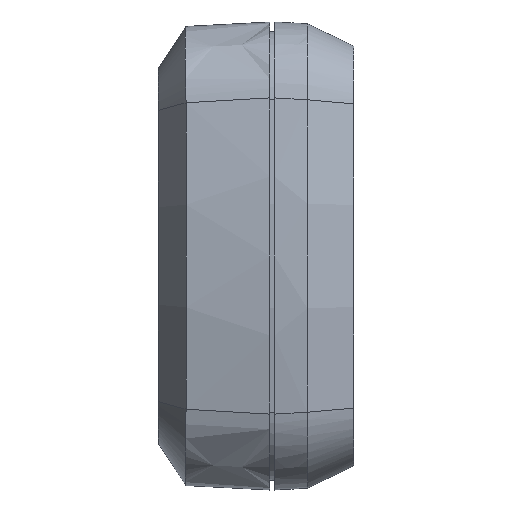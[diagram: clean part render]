
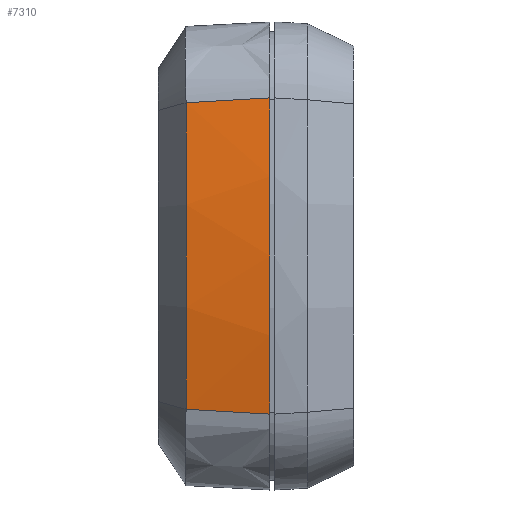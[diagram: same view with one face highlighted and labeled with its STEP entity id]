
A CAD part, left-side view. The second image highlights one B-rep face of the part: STEP entity #7310.
In plain terms, the highlighted conical face has half-angle 3 degrees and reference radius 91.751 mm.
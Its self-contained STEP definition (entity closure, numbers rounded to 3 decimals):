
#104 = CARTESIAN_POINT ( 'NONE',  ( -32.919, 0., 16.96 ) ) ;
#263 = FACE_OUTER_BOUND ( 'NONE', #10819, .T. ) ;
#286 = DIRECTION ( 'NONE',  ( 0., 0., -1. ) ) ;
#1627 = CARTESIAN_POINT ( 'NONE',  ( 57.251, 0., 0. ) ) ;
#1946 = CARTESIAN_POINT ( 'NONE',  ( -32.919, 0., 16.96 ) ) ;
#2124 = B_SPLINE_CURVE_WITH_KNOTS ( 'NONE', 3,
 ( #1946, #4551, #2825, #8919 ),
 .UNSPECIFIED., .F., .F.,
 ( 4, 4 ),
 ( 0., 0.009 ),
 .UNSPECIFIED. ) ;
#2225 = CARTESIAN_POINT ( 'NONE',  ( -32.664, 6.003, -16.614 ) ) ;
#2328 = CIRCLE ( 'NONE', #5550, 91.751 ) ;
#2560 = VERTEX_POINT ( 'NONE', #6099 ) ;
#2825 = CARTESIAN_POINT ( 'NONE',  ( -32.664, 6.003, 16.614 ) ) ;
#3513 = VERTEX_POINT ( 'NONE', #6521 ) ;
#3806 = CARTESIAN_POINT ( 'NONE',  ( 57.251, 0., 0. ) ) ;
#4233 = DIRECTION ( 'NONE',  ( 0., 0., 1. ) ) ;
#4529 = EDGE_CURVE ( 'NONE', #3513, #10523, #11202, .T. ) ;
#4551 = CARTESIAN_POINT ( 'NONE',  ( -32.791, 3.001, 16.787 ) ) ;
#4691 = DIRECTION ( 'NONE',  ( 0., 0., 1. ) ) ;
#4875 = CARTESIAN_POINT ( 'NONE',  ( -32.919, 0., -16.96 ) ) ;
#5044 = EDGE_CURVE ( 'NONE', #2560, #10090, #2328, .T. ) ;
#5542 = DIRECTION ( 'NONE',  ( 0., -1., 0. ) ) ;
#5550 = AXIS2_PLACEMENT_3D ( 'NONE', #3806, #9891, #4691 ) ;
#5850 = B_SPLINE_CURVE_WITH_KNOTS ( 'NONE', 3,
 ( #8329, #2225, #10076, #4875 ),
 .UNSPECIFIED., .F., .F.,
 ( 4, 4 ),
 ( 0.003, 0.012 ),
 .UNSPECIFIED. ) ;
#5991 = DIRECTION ( 'NONE',  ( 0., -1., 0. ) ) ;
#6099 = CARTESIAN_POINT ( 'NONE',  ( -32.919, 0., -16.96 ) ) ;
#6128 = ORIENTED_EDGE ( 'NONE', *, *, #10195, .T. ) ;
#6521 = CARTESIAN_POINT ( 'NONE',  ( -32.535, 9.004, 16.44 ) ) ;
#6679 = CONICAL_SURFACE ( 'NONE', #7364, 91.751, 0.052 ) ;
#6734 = CARTESIAN_POINT ( 'NONE',  ( -32.535, 9.004, -16.44 ) ) ;
#7310 = ADVANCED_FACE ( 'NONE', ( #263 ), #6679, .T. ) ;
#7364 = AXIS2_PLACEMENT_3D ( 'NONE', #1627, #5991, #4233 ) ;
#8329 = CARTESIAN_POINT ( 'NONE',  ( -32.535, 9.004, -16.44 ) ) ;
#8662 = ORIENTED_EDGE ( 'NONE', *, *, #9565, .T. ) ;
#8919 = CARTESIAN_POINT ( 'NONE',  ( -32.535, 9.004, 16.44 ) ) ;
#9481 = AXIS2_PLACEMENT_3D ( 'NONE', #10757, #5542, #286 ) ;
#9565 = EDGE_CURVE ( 'NONE', #10523, #2560, #5850, .T. ) ;
#9819 = ORIENTED_EDGE ( 'NONE', *, *, #5044, .T. ) ;
#9891 = DIRECTION ( 'NONE',  ( 0., 1., 0. ) ) ;
#10076 = CARTESIAN_POINT ( 'NONE',  ( -32.791, 3.001, -16.787 ) ) ;
#10090 = VERTEX_POINT ( 'NONE', #104 ) ;
#10195 = EDGE_CURVE ( 'NONE', #10090, #3513, #2124, .T. ) ;
#10523 = VERTEX_POINT ( 'NONE', #6734 ) ;
#10717 = ORIENTED_EDGE ( 'NONE', *, *, #4529, .T. ) ;
#10757 = CARTESIAN_POINT ( 'NONE',  ( 57.251, 9.004, 0. ) ) ;
#10819 = EDGE_LOOP ( 'NONE', ( #6128, #10717, #8662, #9819 ) ) ;
#11202 = CIRCLE ( 'NONE', #9481, 91.28 ) ;
